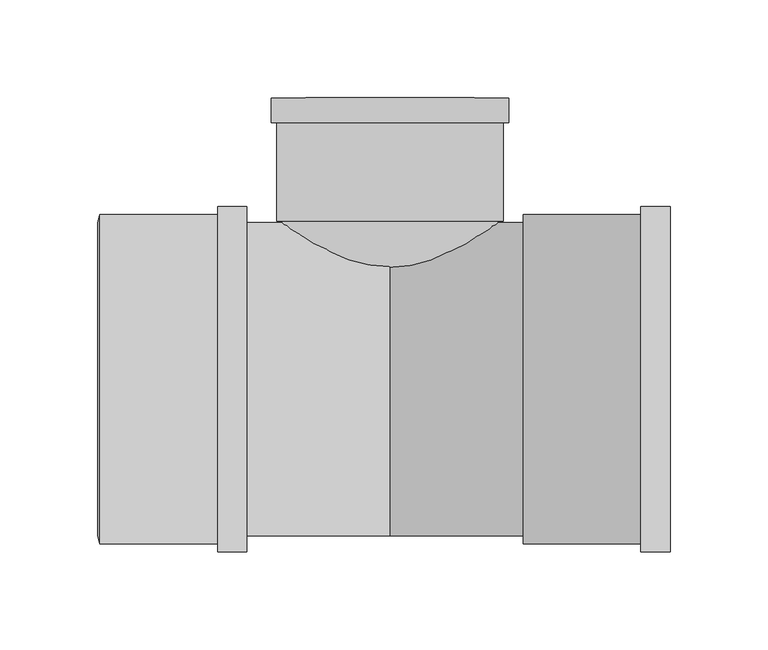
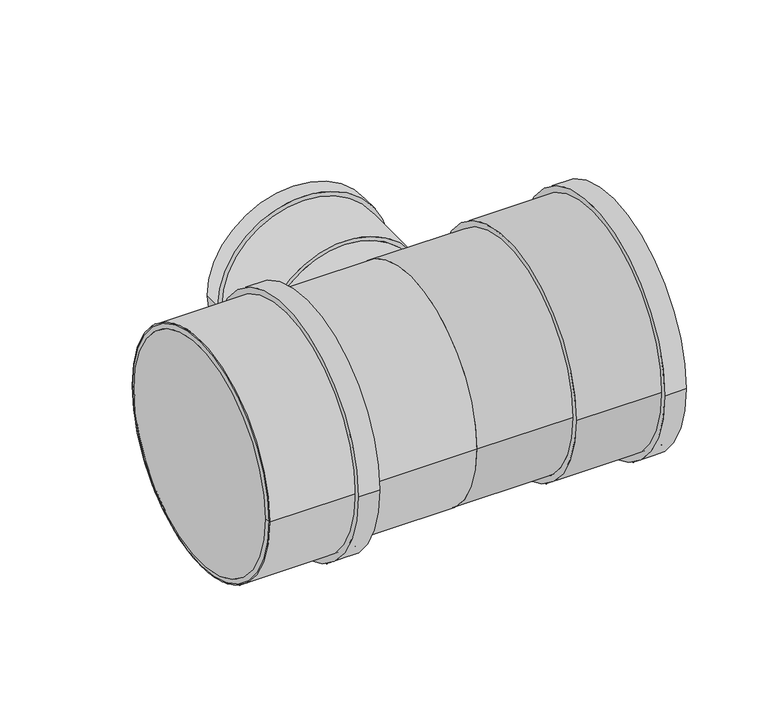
"""IFC4 building model written with IfcOpenShell, lengths in millimetres: pipe fitting geometry, Superdrain HTEA Branch : Superdrain HTEA Branch."""

from ifc_helpers import new_model, si_unit, point, frame, origin, origin_2d, place, context, project, spatial, polyline, circle_curve, trimmed, segment, composite_curve, outline, extrude, source, transform, mapped, element, save
from ifc_brep_helpers import plane_surface, revolved_surface, advanced_brep


def pipe_fitting_26ced66b(model_context):
    return source(origin(), model_context, "Body", "SolidModel", [
        extrude(outline(composite_curve([segment(trimmed(circle_curve(origin_2d(), 84.0), [point((84.0, 0.0))], [point((-84.0, 0.0))], False, "CARTESIAN"), True, "CONTINUOUS"), segment(trimmed(circle_curve(origin_2d(), 84.0), [point((-84.0, 0.0))], [point((84.0, 0.0))], False, "CARTESIAN"), True, "CONTINUOUS")], self_intersect=False), holes=[composite_curve([segment(trimmed(circle_curve(origin_2d(), 80.0), [point((80.0, 0.0))], [point((-80.0, 0.0))], True, "CARTESIAN"), True, "CONTINUOUS"), segment(trimmed(circle_curve(origin_2d(), 80.0), [point((-80.0, 0.0))], [point((80.0, 0.0))], True, "CARTESIAN"), True, "CONTINUOUS")], self_intersect=False)]), frame((-148.0, 0.0, 0.0), z_axis=(1.0, 0.0, 0.0), x_axis=(0.0, 1.0, 0.0)), (0.0, 0.0, 1.0), 75.0),
        extrude(outline(composite_curve([segment(trimmed(circle_curve(origin_2d(), 88.2), [point((88.2, 0.0))], [point((-88.2, 0.0))], False, "CARTESIAN"), True, "CONTINUOUS"), segment(trimmed(circle_curve(origin_2d(), 88.2), [point((-88.2, 0.0))], [point((88.2, 0.0))], False, "CARTESIAN"), True, "CONTINUOUS")], self_intersect=False), holes=[composite_curve([segment(trimmed(circle_curve(origin_2d(), 80.0), [point((80.0, 0.0))], [point((-80.0, 0.0))], True, "CARTESIAN"), True, "CONTINUOUS"), segment(trimmed(circle_curve(origin_2d(), 80.0), [point((-80.0, 0.0))], [point((80.0, 0.0))], True, "CARTESIAN"), True, "CONTINUOUS")], self_intersect=False)]), frame((-88.0, 0.0, 0.0), z_axis=(1.0, 0.0, 0.0), x_axis=(0.0, 1.0, 0.0)), (0.0, 0.0, 1.0), 15.0),
        advanced_brep(
        [(-149.0, 80.0, 0.0), (-149.0, -80.0, 0.0), (-148.0, 84.0, 0.0), (-148.0, -84.0, 0.0)],
        [
            (0, 1, circle_curve(frame((-149.0, 0.0, 0.0), z_axis=(-1.0, 0.0, 0.0), x_axis=(0.0, 1.0000000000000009, 0.0)), 80.0)),
            (1, 0, circle_curve(frame((-149.0, 0.0, 0.0), z_axis=(-1.0, 0.0, 0.0), x_axis=(0.0, -1.0000000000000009, 0.0)), 80.0)),
            (2, 3, circle_curve(frame((-148.0, 0.0, 0.0), z_axis=(1.0, 0.0, 0.0), x_axis=(0.0, -1.0000000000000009, 0.0)), 84.0)),
            (3, 2, circle_curve(frame((-148.0, 0.0, 0.0), z_axis=(1.0, 0.0, 0.0), x_axis=(0.0, 1.0000000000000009, 0.0)), 84.0)),
            (3, 1),
            (0, 2),
        ],
        [
            plane_surface(frame((-149.0, 0.0, 0.0), z_axis=(-1.0, 0.0, 0.0), x_axis=(0.0, 0.0, -1.0))),
            plane_surface(frame((-148.0, 0.0, 0.0), z_axis=(1.0, 0.0, 0.0), x_axis=(0.0, 0.0, -1.0))),
            revolved_surface(polyline([(-149.0, 79.99999999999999, 0.0), (-148.0, 84.0, 0.0)]), (-169.0, 0.0, 0.0), (1.0000000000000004, 0.0, 0.0)),
            revolved_surface(polyline([(-149.0, -79.99999999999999, 0.0), (-148.0, -84.0, 0.0)]), (-169.0, 0.0, 0.0), (1.0000000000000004, 0.0, 0.0)),
        ],
        [
            (0, [[1, 2]]),
            (1, [[3, 4]]),
            (2, [[-4, 5, -1, 6]]),
            (3, [[-3, -6, -2, -5]]),
        ],
    ),
        extrude(outline(composite_curve([segment(trimmed(circle_curve(origin_2d(), 84.0), [point((-84.0, 0.0))], [point((84.0, 0.0))], False, "CARTESIAN"), True, "CONTINUOUS"), segment(trimmed(circle_curve(origin_2d(), 84.0), [point((84.0, 0.0))], [point((-84.0, 0.0))], False, "CARTESIAN"), True, "CONTINUOUS")], self_intersect=False), holes=[composite_curve([segment(trimmed(circle_curve(origin_2d(), 80.0), [point((80.0, 0.0))], [point((-80.0, 0.0))], True, "CARTESIAN"), True, "CONTINUOUS"), segment(trimmed(circle_curve(origin_2d(), 80.0), [point((-80.0, 0.0))], [point((80.0, 0.0))], True, "CARTESIAN"), True, "CONTINUOUS")], self_intersect=False)]), frame((67.9, 0.0, 0.0), z_axis=(1.0, 0.0, 0.0), x_axis=(0.0, 1.0, 0.0)), (0.0, 0.0, 1.0), 75.0),
        extrude(outline(composite_curve([segment(trimmed(circle_curve(origin_2d(), 88.2), [point((88.2, 0.0))], [point((-88.2, 0.0))], False, "CARTESIAN"), True, "CONTINUOUS"), segment(trimmed(circle_curve(origin_2d(), 88.2), [point((-88.2, 0.0))], [point((88.2, 0.0))], False, "CARTESIAN"), True, "CONTINUOUS")], self_intersect=False), holes=[composite_curve([segment(trimmed(circle_curve(origin_2d(), 80.0), [point((80.0, 0.0))], [point((-80.0, 0.0))], True, "CARTESIAN"), True, "CONTINUOUS"), segment(trimmed(circle_curve(origin_2d(), 80.0), [point((-80.0, 0.0))], [point((80.0, 0.0))], True, "CARTESIAN"), True, "CONTINUOUS")], self_intersect=False)]), frame((127.9, 0.0, 0.0), z_axis=(1.0, 0.0, 0.0), x_axis=(0.0, 1.0, 0.0)), (0.0, 0.0, 1.0), 15.0),
        extrude(outline(composite_curve([segment(trimmed(circle_curve(origin_2d(), 55.0), [point((0.0, 55.0))], [point((0.0, -55.0))], False, "CARTESIAN"), True, "CONTINUOUS"), segment(trimmed(circle_curve(origin_2d(), 55.0), [point((0.0, -55.0))], [point((0.0, 55.0))], False, "CARTESIAN"), True, "CONTINUOUS")], self_intersect=False)), frame((0.0, 0.0, 0.0), z_axis=(0.0, 1.0, 0.0), x_axis=(0.0, 0.0, 1.0)), (0.0, 0.0, 1.0), 80.6),
        extrude(outline(composite_curve([segment(trimmed(circle_curve(origin_2d(), 80.0), [point((80.0, 0.0))], [point((-80.0, 0.0))], False, "CARTESIAN"), True, "CONTINUOUS"), segment(trimmed(circle_curve(origin_2d(), 80.0), [point((-80.0, 0.0))], [point((80.0, 0.0))], False, "CARTESIAN"), True, "CONTINUOUS")], self_intersect=False)), frame((-148.0, 0.0, 0.0), z_axis=(1.0, 0.0, 0.0), x_axis=(0.0, 1.0, 0.0)), (0.0, 0.0, 1.0), 148.0),
        extrude(outline(composite_curve([segment(trimmed(circle_curve(origin_2d(), 80.0), [point((-80.0, 0.0))], [point((80.0, 0.0))], False, "CARTESIAN"), True, "CONTINUOUS"), segment(trimmed(circle_curve(origin_2d(), 80.0), [point((80.0, 0.0))], [point((-80.0, 0.0))], False, "CARTESIAN"), True, "CONTINUOUS")], self_intersect=False)), frame((0.0, 0.0, 0.0), z_axis=(1.0, 0.0, 0.0), x_axis=(0.0, 1.0, 0.0)), (0.0, 0.0, 1.0), 67.9),
        extrude(outline(composite_curve([segment(trimmed(circle_curve(origin_2d(), 60.6375), [point((0.0, 60.6375))], [point((0.0, -60.6375))], False, "CARTESIAN"), True, "CONTINUOUS"), segment(trimmed(circle_curve(origin_2d(), 60.6375), [point((0.0, -60.6375))], [point((0.0, 60.6375))], False, "CARTESIAN"), True, "CONTINUOUS")], self_intersect=False), holes=[composite_curve([segment(trimmed(circle_curve(origin_2d(), 55.0), [point((0.0, 55.0))], [point((0.0, -55.0))], True, "CARTESIAN"), True, "CONTINUOUS"), segment(trimmed(circle_curve(origin_2d(), 55.0), [point((0.0, -55.0))], [point((0.0, 55.0))], True, "CARTESIAN"), True, "CONTINUOUS")], self_intersect=False)]), frame((0.0, 131.0, 0.0), z_axis=(0.0, 1.0, 0.0), x_axis=(0.0, 0.0, 1.0)), (0.0, 0.0, 1.0), 12.6),
        extrude(outline(composite_curve([segment(trimmed(circle_curve(origin_2d(), 57.75), [point((0.0, 57.75))], [point((0.0, -57.75))], False, "CARTESIAN"), True, "CONTINUOUS"), segment(trimmed(circle_curve(origin_2d(), 57.75), [point((0.0, -57.75))], [point((0.0, 57.75))], False, "CARTESIAN"), True, "CONTINUOUS")], self_intersect=False), holes=[composite_curve([segment(trimmed(circle_curve(origin_2d(), 55.0), [point((0.0, 55.0))], [point((0.0, -55.0))], True, "CARTESIAN"), True, "CONTINUOUS"), segment(trimmed(circle_curve(origin_2d(), 55.0), [point((0.0, -55.0))], [point((0.0, 55.0))], True, "CARTESIAN"), True, "CONTINUOUS")], self_intersect=False)]), frame((0.0, 80.6, 0.0), z_axis=(0.0, 1.0, 0.0), x_axis=(0.0, 0.0, 1.0)), (0.0, 0.0, 1.0), 63.0),
    ])


if __name__ == "__main__":
    model = new_model("IFC4")
    model_context = context("Model", 3, world=origin())
    ifc_project = project(units=[si_unit("LENGTHUNIT", "METRE", prefix="MILLI")], contexts=[model_context])
    site = spatial("IfcSite", under=ifc_project)
    building = spatial("IfcBuilding", under=site)
    placement = place(None, origin())
    pipe_fitting_shape = pipe_fitting_26ced66b(model_context)
    element("IfcPipeFitting", 1, ObjectType="Superdrain HTEA Branch : Superdrain HTEA Branch", at=placement, inside=building, context=model_context, shape_type="MappedRepresentation", body=[
        mapped(pipe_fitting_shape, transform((0.0, 0.0, 0.0), x_axis=(1.0, 0.0, 0.0), y_axis=(0.0, 1.0, 0.0), z_axis=(0.0, 0.0, 1.0))),
    ])
    save(model, "model.ifc")
